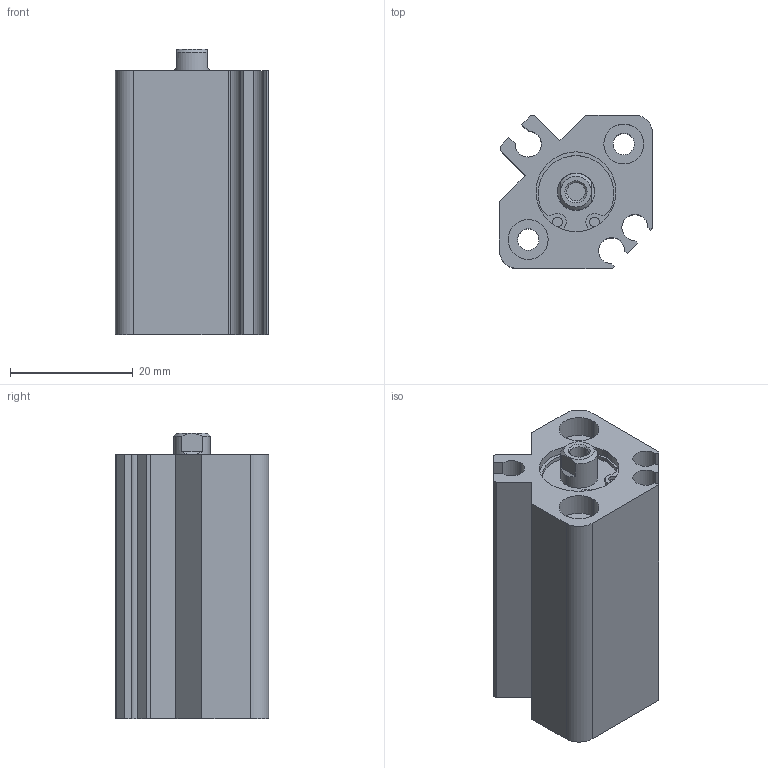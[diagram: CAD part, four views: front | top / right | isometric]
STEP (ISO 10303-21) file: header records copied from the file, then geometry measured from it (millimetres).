
FILE_DESCRIPTION (( 'STEP AP214' ), '1' );
FILE_NAME ('CDQ2B12-15DZ.step.step', '2021-07-22T20:42:15', ( '' ), ( '' ), 'SwSTEP 2.0', 'SolidWorks 2021', '' );
FILE_SCHEMA (( 'AUTOMOTIVE_DESIGN' ));
Length unit declared in the file: millimetre
Products named in the file (4): CDQ2B12-15DZ.step_CQ2Tube_12BD; CDQ2B12-15DZ.step_CQ2 SnapRing_12; CDQ2B12-15DZ.step_CQ22031Rods_12; CDQ2B12-15DZ.step
Assembly tree (3 placements, depth 2):
  CDQ2B12-15DZ.step
    CDQ2B12-15DZ.step_CQ2Tube_12BD
    CDQ2B12-15DZ.step_CQ22031Rods_12
    CDQ2B12-15DZ.step_CQ2 SnapRing_12
Bounding box: 25 x 25 x 46.5 mm (x, y, z)
Volume: 18522.1 mm3; surface area: 10510.9 mm2
Topology: 3 solids, 3 shells, 124 faces, 312 edges, 201 vertices
Faces by surface type: cylinder 66, plane 50, cone 8
Entity records: 4335 total; most frequent: CARTESIAN_POINT 705, DIRECTION 702, ORIENTED_EDGE 616, EDGE_CURVE 308, AXIS2_PLACEMENT_3D 276, VERTEX_POINT 201, VECTOR 150, LINE 150
